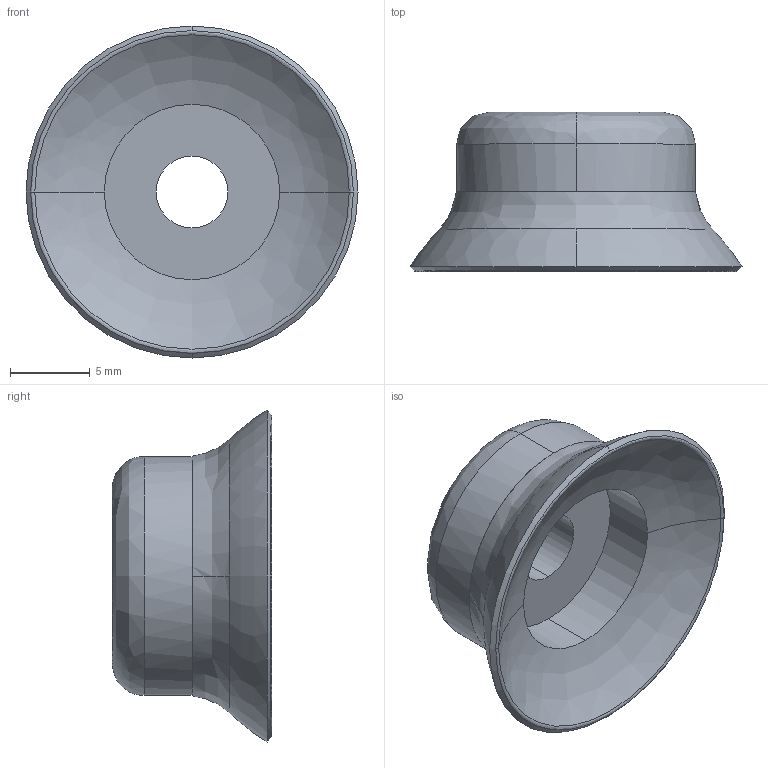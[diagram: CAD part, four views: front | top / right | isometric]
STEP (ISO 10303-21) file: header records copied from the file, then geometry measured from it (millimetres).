
FILE_DESCRIPTION (( 'STEP AP214' ), '1' );
FILE_NAME ('PFG-20.STEP', '2023-03-07T05:48:39', ( 'Windows User' ), ( 'P R C' ), 'SwSTEP 2.0', 'SolidWorks 2019', '' );
FILE_SCHEMA (( 'AUTOMOTIVE_DESIGN' ));
Length unit declared in the file: millimetre
Products named in the file (1): PFG-20
Bounding box: 20.84 x 10 x 20.84 mm (x, y, z)
Volume: 1225.4 mm3; surface area: 1204.6 mm2
Topology: 1 solids, 1 shells, 21 faces, 48 edges, 30 vertices
Faces by surface type: bspline 8, cylinder 6, plane 3, torus 2, cone 2
Entity records: 728 total; most frequent: CARTESIAN_POINT 256, ORIENTED_EDGE 96, DIRECTION 92, EDGE_CURVE 48, AXIS2_PLACEMENT_3D 42, VERTEX_POINT 30, CIRCLE 28, EDGE_LOOP 24
